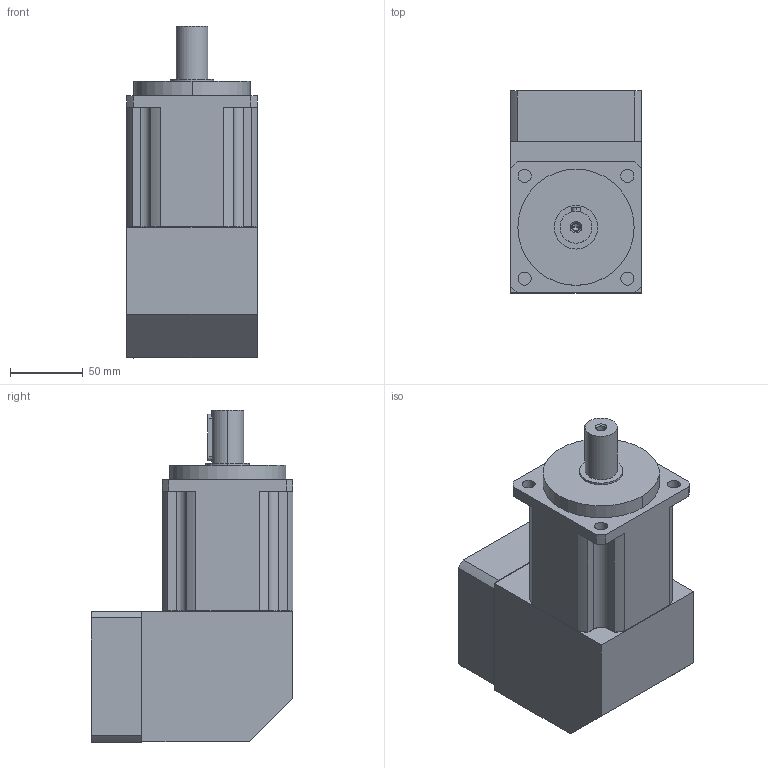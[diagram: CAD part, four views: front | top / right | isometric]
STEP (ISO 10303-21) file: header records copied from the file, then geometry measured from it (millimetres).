
FILE_DESCRIPTION (( 'STEP AP203' ), '1' );
FILE_NAME ('IBR090L2-i-P2-S2-16-40-80-100-M6.STEP', '2016-01-04T12:57:41', ( 'User' ), ( 'china' ), 'SwSTEP 2.0', 'SolidWorks 2014', '' );
FILE_SCHEMA (( 'CONFIG_CONTROL_DESIGN' ));
Length unit declared in the file: millimetre
Products named in the file (1): IBR090L2-i-P2-S2-16-40-80-100-M6
Bounding box: 90 x 139 x 228.6 mm (x, y, z)
Volume: 1750790.3 mm3; surface area: 106018 mm2
Topology: 1 solids, 1 shells, 150 faces, 360 edges, 219 vertices
Faces by surface type: cylinder 77, plane 49, cone 12, bspline 12
Entity records: 5190 total; most frequent: CARTESIAN_POINT 1673, DIRECTION 730, ORIENTED_EDGE 700, EDGE_CURVE 350, AXIS2_PLACEMENT_3D 276, VERTEX_POINT 219, VECTOR 178, LINE 178
